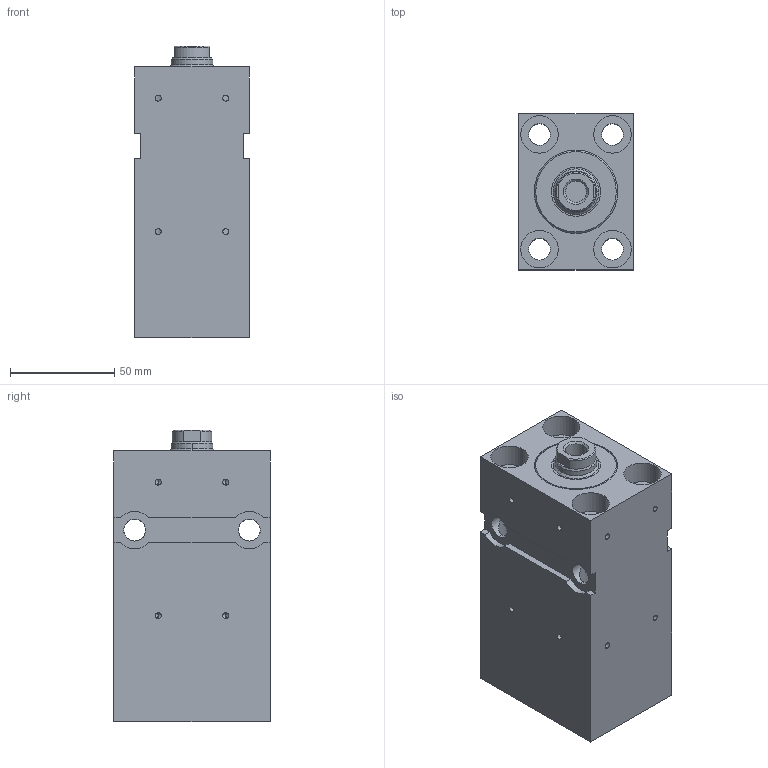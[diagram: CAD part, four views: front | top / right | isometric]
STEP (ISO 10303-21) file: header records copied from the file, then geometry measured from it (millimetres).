
FILE_DESCRIPTION (( 'STEP AP203' ), '1' );
FILE_NAME ('BZ_500.32_20.78.201.080 PP.KBC38__DH_0_.STEP', '2022-05-23T15:40:10', ( '' ), ( '' ), 'SwSTEP 2.0', 'SolidWorks 2020', '' );
FILE_SCHEMA (( 'CONFIG_CONTROL_DESIGN' ));
Length unit declared in the file: millimetre
Products named in the file (6): _Kolbenstange komplett f. BZ_RZ_FZ.32_20.xx.201.80(0_11 1 12 1.75 0 0 10 15 0 0 0)0^BZ_500.32_20.78.201.080 PP.KBC38__DH_0_(2)_BZ_500.32_20.78.201.080 PP.KBC38__DH_0_; _Verschraubung komplett mit Dichtung f. BZ_RZ_FZ.32_20.201, Art.-Nr._ 041671(201)^BZ_500.32_20.78.201.080 PP.KBC38__DH_0_(2)_BZ_500.32_20.78.201.080 PP.KBC38__DH_0_; BZ_500.32_20.78.201.080 PP.KBC38__DH_0_; BZ_500.32_20.78.201.080 PP.KBC38__DH_0_(2)^BZ_500.32_20.78.201.080 PP.KBC38__DH_0_; _Gehaeuse f. BZ500.32_20.Fehler in IDBF.201.80Fehler in IDNT00(1338frei278000))7^BZ_500.32_20.78.201.080 PP.KBC38__DH_0_(2)_BZ_500.32_20.78.201.080 PP.KBC38__DH_0_; _Dichtungssatz f. BZ_RZ_FZ.32_20.xx.201.80 Artikelnr._ 013411(0)^BZ_500.32_20.78.201.080 PP.KBC38__DH_0_(2)_BZ_500.32_20.78.201.080 PP.KBC38__DH_0_
Assembly tree (5 placements, depth 3):
  BZ_500.32_20.78.201.080 PP.KBC38__DH_0_
    BZ_500.32_20.78.201.080 PP.KBC38__DH_0_(2)^BZ_500.32_20.78.201.080 PP.KBC38__DH_0_
      _Gehaeuse f. BZ500.32_20.Fehler in IDBF.201.80Fehler in IDNT00(1338frei278000))7^BZ_500.32_20.78.201.080 PP.KBC38__DH_0_(2)_BZ_500.32_20.78.201.080 PP.KBC38__DH_0_
      _Verschraubung komplett mit Dichtung f. BZ_RZ_FZ.32_20.201, Art.-Nr._ 041671(201)^BZ_500.32_20.78.201.080 PP.KBC38__DH_0_(2)_BZ_500.32_20.78.201.080 PP.KBC38__DH_0_
      _Dichtungssatz f. BZ_RZ_FZ.32_20.xx.201.80 Artikelnr._ 013411(0)^BZ_500.32_20.78.201.080 PP.KBC38__DH_0_(2)_BZ_500.32_20.78.201.080 PP.KBC38__DH_0_
      _Kolbenstange komplett f. BZ_RZ_FZ.32_20.xx.201.80(0_11 1 12 1.75 0 0 10 15 0 0 0)0^BZ_500.32_20.78.201.080 PP.KBC38__DH_0_(2)_BZ_500.32_20.78.201.080 PP.KBC38__DH_0_
Bounding box: 55 x 75 x 140 mm (x, y, z)
Volume: 422406 mm3; surface area: 96018.5 mm2
Topology: 4 solids, 4 shells, 199 faces, 496 edges, 304 vertices
Faces by surface type: cylinder 117, plane 52, cone 30
Entity records: 6898 total; most frequent: CARTESIAN_POINT 1493, DIRECTION 1057, ORIENTED_EDGE 960, EDGE_CURVE 480, AXIS2_PLACEMENT_3D 419, VERTEX_POINT 304, EDGE_LOOP 250, VECTOR 219
